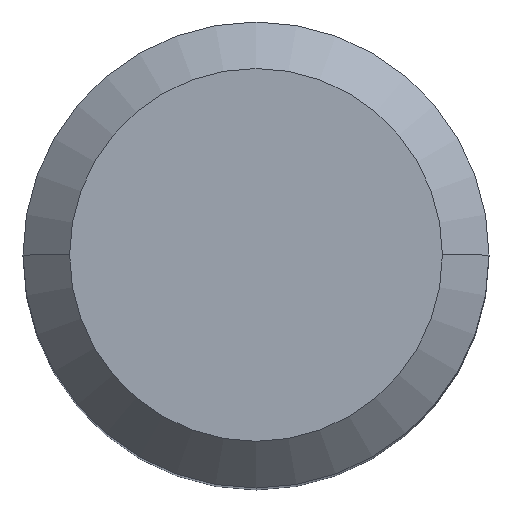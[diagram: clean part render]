
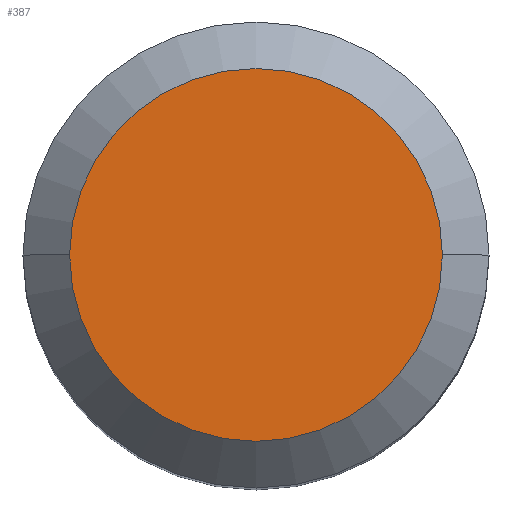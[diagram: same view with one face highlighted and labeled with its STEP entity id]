
A CAD part, top view. The second image highlights one B-rep face of the part: STEP entity #387.
In plain terms, the highlighted planar face has unit normal (0, 0, 1).
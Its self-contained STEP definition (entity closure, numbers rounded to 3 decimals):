
#32 = DIRECTION ( 'NONE',  ( 0., 0., -1. ) ) ;
#88 = AXIS2_PLACEMENT_3D ( 'NONE', #125, #128, #122 ) ;
#122 = DIRECTION ( 'NONE',  ( 1., 0., 0. ) ) ;
#125 = CARTESIAN_POINT ( 'NONE',  ( 0., 8., 0. ) ) ;
#128 = DIRECTION ( 'NONE',  ( 0., 0., 1. ) ) ;
#150 = CARTESIAN_POINT ( 'NONE',  ( 0., 0., 0. ) ) ;
#173 = EDGE_CURVE ( 'NONE', #453, #266, #293, .T. ) ;
#178 = ORIENTED_EDGE ( 'NONE', *, *, #307, .F. ) ;
#194 = DIRECTION ( 'NONE',  ( 0., 0., -1. ) ) ;
#218 = AXIS2_PLACEMENT_3D ( 'NONE', #150, #194, #324 ) ;
#266 = VERTEX_POINT ( 'NONE', #455 ) ;
#277 = DIRECTION ( 'NONE',  ( -1., 0., 0. ) ) ;
#293 = CIRCLE ( 'NONE', #218, 8. ) ;
#307 = EDGE_CURVE ( 'NONE', #266, #453, #326, .T. ) ;
#324 = DIRECTION ( 'NONE',  ( -1., 0., 0. ) ) ;
#326 = CIRCLE ( 'NONE', #534, 8. ) ;
#352 = ORIENTED_EDGE ( 'NONE', *, *, #173, .F. ) ;
#368 = CARTESIAN_POINT ( 'NONE',  ( 8., 0., 0. ) ) ;
#387 = ADVANCED_FACE ( 'NONE', ( #498 ), #506, .T. ) ;
#443 = EDGE_LOOP ( 'NONE', ( #178, #352 ) ) ;
#453 = VERTEX_POINT ( 'NONE', #368 ) ;
#455 = CARTESIAN_POINT ( 'NONE',  ( -8., 0., 0. ) ) ;
#463 = CARTESIAN_POINT ( 'NONE',  ( 0., 0., 0. ) ) ;
#498 = FACE_OUTER_BOUND ( 'NONE', #443, .T. ) ;
#506 = PLANE ( 'NONE',  #88 ) ;
#534 = AXIS2_PLACEMENT_3D ( 'NONE', #463, #32, #277 ) ;
